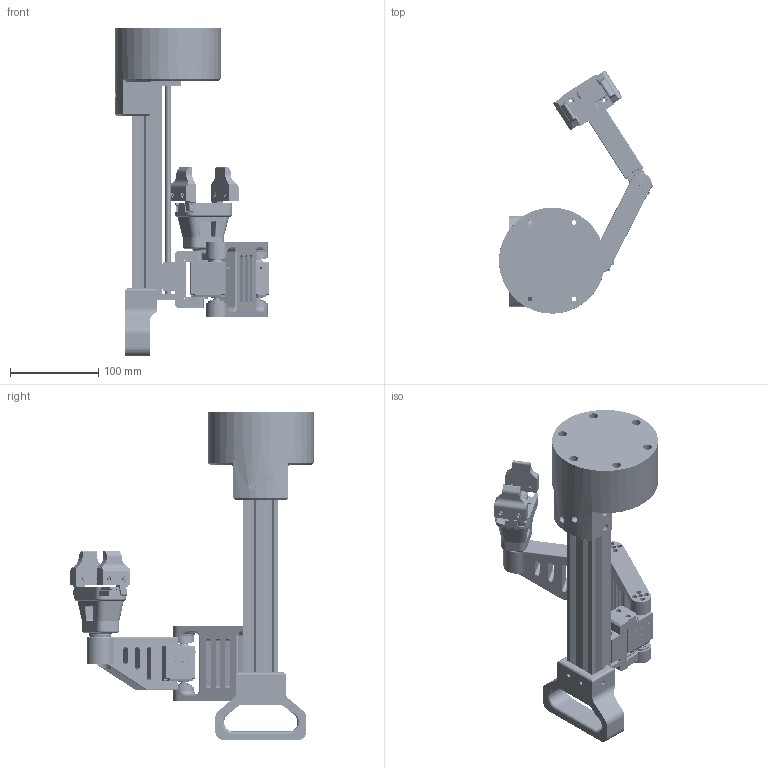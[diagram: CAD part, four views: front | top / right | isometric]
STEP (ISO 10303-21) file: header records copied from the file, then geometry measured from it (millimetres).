
FILE_DESCRIPTION(/* description */ (''),/* implementation_level */ '2;1');
FILE_NAME(/* name */ 'Assieme_scara_04.stp',/* time_stamp */ '2025-11-20T17:35:07+01:00',/* author */ ('Ryzen5700u'),/* organization */ (''),/* preprocessor_version */ 'ST-DEVELOPER v20',/* originating_system */ 'Autodesk Inventor 2025',/* authorisation */ '');
FILE_SCHEMA (('AUTOMOTIVE_DESIGN { 1 0 10303 214 3 1 1 }'));
Products named in the file (58): Assieme_scara_02; base1; blocco_motore1; BS 4168 - M2,5 x 12; AS 1420 - 1973 - M4 x 30; tslot 2040; Assieme_profilato; profilato; profilato_cuscinetto; profilato_motore; Nema11; 00144585; 00144585_01; 00144585_02; 00144585_03; 00144585_04; 00144585_05; 00144585_06; 00144585_07; 00144585_08; 00144585_09; 00144585_10; 00144585_11; 00144585_12; 00144585_13; 00144585_14; Actuator_MGN9; AS 1420 - 1973 - M3 x 6; Actuator_MGN9C; Carriage; AS 1420 - 1973 - M3 x 12; maniglia; disco_120; gripper; gripper_rail_base; gripper_finger; gripper_base_plate; MG90S_assieme_disco_ldb2; MG90_ldb; scritta_MG90s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
Assembly tree (93 placements, depth 4):
  Assieme_scara_02
    base1
    blocco_motore1
    BS 4168 - M2,5 x 12  x4
    AS 1420 - 1973 - M4 x 30  x4
    tslot 2040
    Assieme_profilato
      profilato
      profilato_cuscinetto
      profilato_motore
      Nema11
      00144585
        00144585_01
        00144585_02
        00144585_03
        00144585_04
        00144585_05
        00144585_06
        00144585_07
        00144585_08
        00144585_09
        00144585_10
        00144585_11
        00144585_12
        00144585_13
        00144585_14
      Actuator_MGN9
      AS 1420 - 1973 - M3 x 6  x4
      Actuator_MGN9C
      Carriage
      AS 1420 - 1973 - M3 x 12  x4
    maniglia
    disco_120
    gripper
      gripper_rail_base
      gripper_finger  x2
      gripper_base_plate
      MG90S_assieme_disco_ldb2
        MG90_ldb
        scritta_MG90s  x2
      MG90S 9g Micro Servo Medium Horn 12 holes
      blocco_giunto_polso
      gripper_spur_gear v2
      dito1  x2
      AS 1420 - 1973 - M3 x 10  x5
      BS 4168 - M2,5 x 10
      AS 1427 - M2 x 12
    rds3120-3d
      GE_57
      DUOPAN-SG
      DUOPAN-DG
      ZJ-DUAN
      corpo_3ds3120
    rds3120-3d_1
      GE_57
      DUOPAN-SG
      DUOPAN-DG
      ZJ-DUAN
      corpo_3ds3120
    braccio_02
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Bounding box: 174.25 x 275.82 x 372 mm (x, y, z)
Volume: 1332441 mm3; surface area: 412658.6 mm2
Topology: 87 solids, 91 shells, 3749 faces, 10261 edges, 6933 vertices
Faces by surface type: plane 2081, cylinder 954, bspline 410, cone 136, torus 132, sphere 36
Full cylindrical faces by diameter (mm): 1.03 x6, 1.167 x3, 1.2 x2, 1.5 x2, 1.6 x2, 1.755 x1, 2 x3, 2.05 x4, 2.2 x33, 2.3 x4, 2.4 x8, 2.459 x6, 2.47 x1, 2.5 x77, 2.8 x4, 2.9 x4, 3 x37, 3.2 x48, 3.242 x4, 3.4 x32, 3.5 x5, 4 x5, 4.3 x6, 4.5 x9, 4.69 x1, 4.8 x1, 5 x5, 5.3 x7, 5.5 x62, 5.8 x4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
Entity records: 147607 total; most frequent: CARTESIAN_POINT 76886, ORIENTED_EDGE 14452, DIRECTION 13290, EDGE_CURVE 7226, VERTEX_POINT 4874, LINE 4448, VECTOR 4448, AXIS2_PLACEMENT_3D 4421
